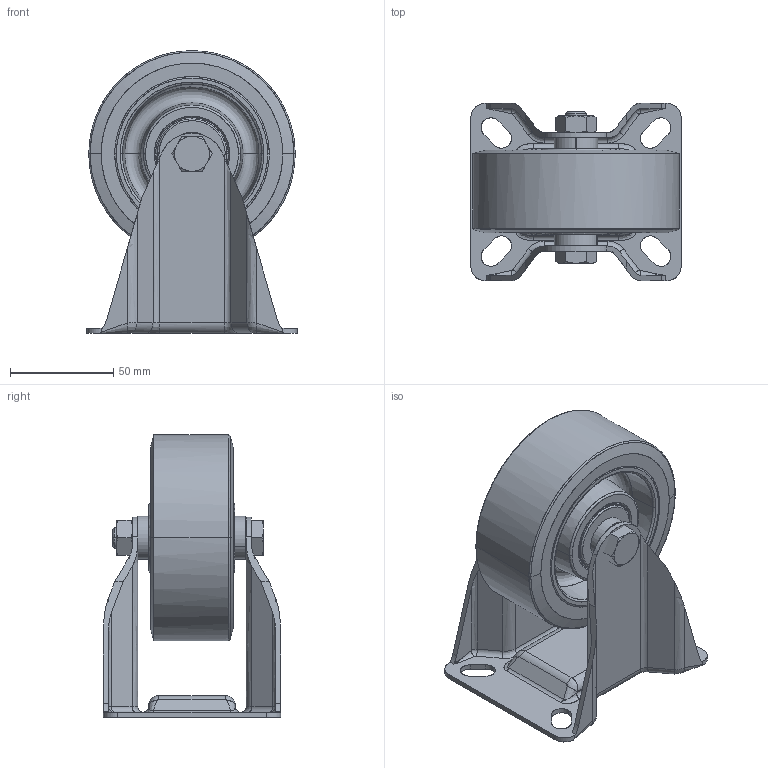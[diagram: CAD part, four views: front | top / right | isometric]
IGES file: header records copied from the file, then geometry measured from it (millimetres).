
Start section: SolidWorks IGES file using analytic representation for surfaces
Global section: file name: S:\Tyokansio\KULJETUSPYÖRÄT\LK\LS\IGES\401524_.igs; native system: SolidWorks 2014; preprocessor: SolidWorks 2014; author: markola; date: 150914.094320; units: millimetre
Bounding box: 102 x 86 x 137 mm (x, y, z)
Surface area: 104016.5 mm2 (no closed solid volume)
Topology: 0 solids, 0 shells, 382 faces, 5264 edges, 5254 vertices
Faces by surface type: bspline 264, revolution 118
